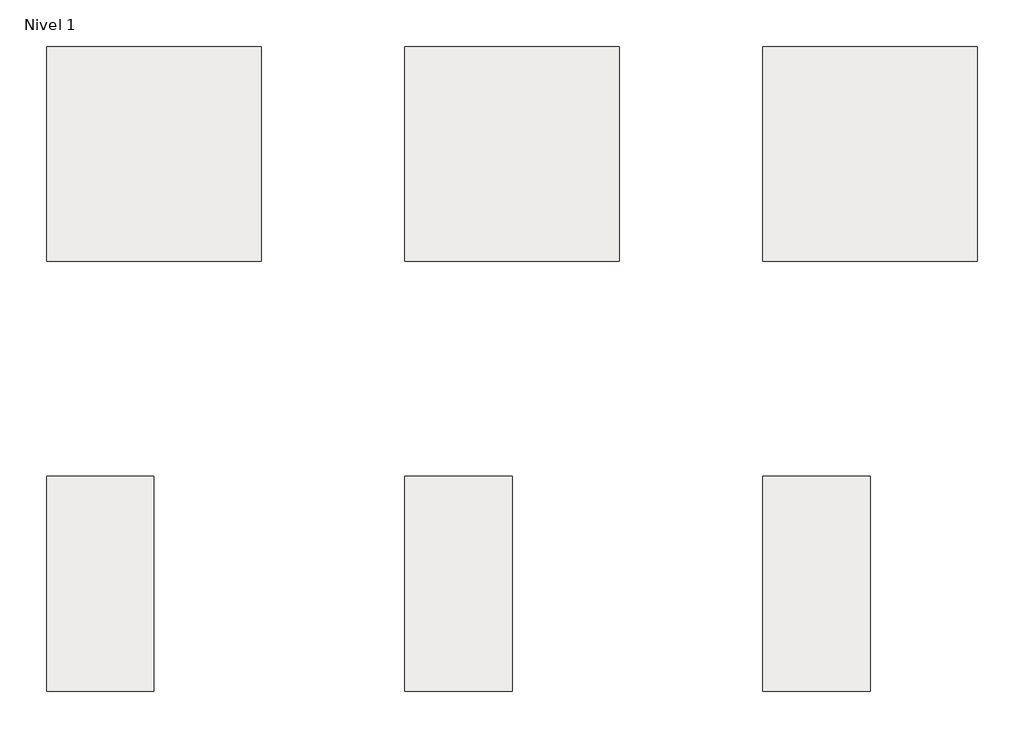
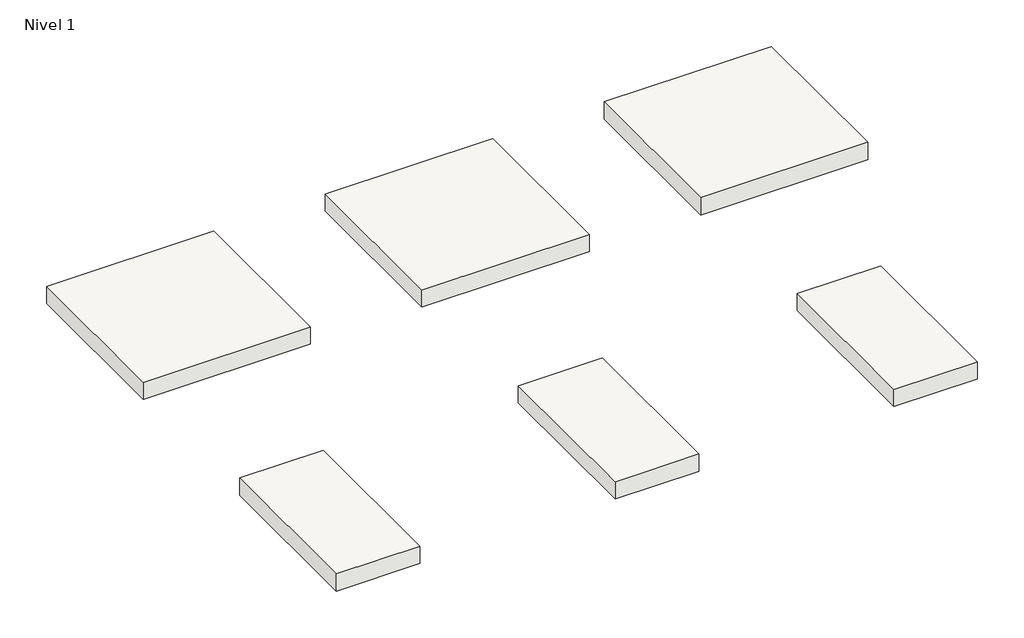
# One storey: 6 slabs.
"""IFC4 building model written with IfcOpenShell, lengths in millimetres."""

from ifc_helpers import new_model, si_unit, frame, origin, place, context, project, spatial, polyline, outline, extrude, element, save

model = new_model("IFC4")

# Units and contexts
model_context = context("Model", 3, world=origin())
ifc_project = project(units=[si_unit("LENGTHUNIT", "METRE", prefix="MILLI")], contexts=[model_context])

# Site, building, storey
site = spatial("IfcSite", under=ifc_project)
building = spatial("IfcBuilding", under=site)
storey = spatial("IfcBuildingStorey", under=building, Name="Nivel 1", Elevation=0.0)

# Slabs
placement = place(None, origin())
element("IfcSlab", 1, ObjectType="Lucena Arena 60X60", at=placement, inside=storey, context=model_context, shape_type="SweptSolid", body=[
    extrude(outline(polyline([(0.0, 600.0), (600.0, 600.0), (600.0, 0.0), (0.0, 0.0), (0.0, 600.0)])), frame((0.0, 0.0, -65.0), z_axis=(0.0, 0.0, 1.0), x_axis=(1.0, 0.0, 0.0)), (0.0, 0.0, 1.0), 65.0),
])
element("IfcSlab", 2, ObjectType="Lucena Blanco 60X60", at=placement, inside=storey, context=model_context, shape_type="SweptSolid", body=[
    extrude(outline(polyline([(1000.0, 600.0), (1600.0, 600.0), (1600.0, 0.0), (1000.0, 0.0), (1000.0, 600.0)])), frame((0.0, 0.0, -65.0), z_axis=(0.0, 0.0, 1.0), x_axis=(1.0, 0.0, 0.0)), (0.0, 0.0, 1.0), 65.0),
])
element("IfcSlab", 3, ObjectType="Lucena Perla 60X60", at=placement, inside=storey, context=model_context, shape_type="SweptSolid", body=[
    extrude(outline(polyline([(2000.0, 600.0), (2600.0, 600.0), (2600.0, 0.0), (2000.0, 0.0), (2000.0, 600.0)])), frame((0.0, 0.0, -65.0), z_axis=(0.0, 0.0, 1.0), x_axis=(1.0, 0.0, 0.0)), (0.0, 0.0, 1.0), 65.0),
])
element("IfcSlab", 4, ObjectType="Lucena Arena 30X60", at=placement, inside=storey, context=model_context, shape_type="SweptSolid", body=[
    extrude(outline(polyline([(0.0, -600.0), (300.0, -600.0), (300.0, -1200.0), (0.0, -1200.0), (0.0, -600.0)])), frame((0.0, 0.0, -65.0), z_axis=(0.0, 0.0, 1.0), x_axis=(1.0, 0.0, 0.0)), (0.0, 0.0, 1.0), 65.0),
])
element("IfcSlab", 5, ObjectType="Lucena Blanco 30X60", at=placement, inside=storey, context=model_context, shape_type="SweptSolid", body=[
    extrude(outline(polyline([(1000.0, -600.0), (1300.0, -600.0), (1300.0, -1200.0), (1000.0, -1200.0), (1000.0, -600.0)])), frame((0.0, 0.0, -65.0), z_axis=(0.0, 0.0, 1.0), x_axis=(1.0, 0.0, 0.0)), (0.0, 0.0, 1.0), 65.0),
])
element("IfcSlab", 6, ObjectType="Lucena Perla 30X60", at=placement, inside=storey, context=model_context, shape_type="SweptSolid", body=[
    extrude(outline(polyline([(2000.0, -600.0), (2300.0, -600.0), (2300.0, -1200.0), (2000.0, -1200.0), (2000.0, -600.0)])), frame((0.0, 0.0, -65.0), z_axis=(0.0, 0.0, 1.0), x_axis=(1.0, 0.0, 0.0)), (0.0, 0.0, 1.0), 65.0),
])

save(model, "model.ifc")
